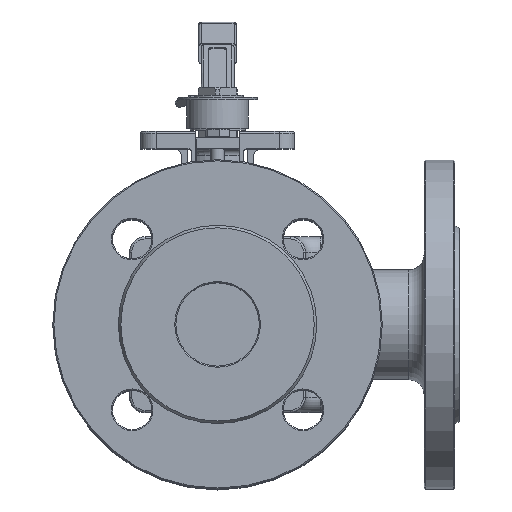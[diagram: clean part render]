
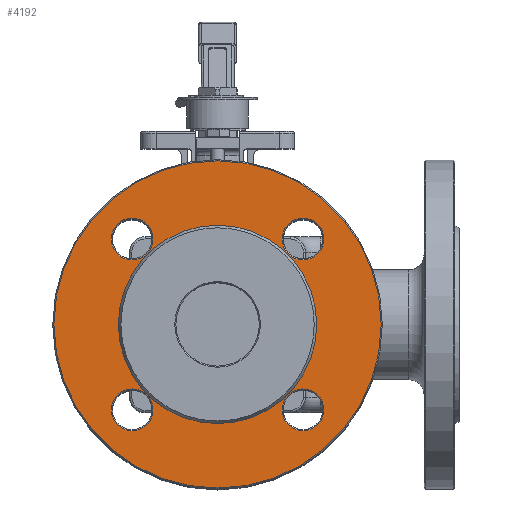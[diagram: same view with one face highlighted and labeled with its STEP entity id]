
A CAD part, top view. The second image highlights one B-rep face of the part: STEP entity #4192.
In plain terms, the highlighted planar face has unit normal (0, 0, 1).
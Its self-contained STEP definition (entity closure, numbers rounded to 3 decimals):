
#4192=ADVANCED_FACE('',(#12175,#12177,#12179,#12181,#12183,#12185),#12187,.T.);
#12175=FACE_BOUND('',#12176,.T.);
#12176=EDGE_LOOP('',(#17915));
#12177=FACE_BOUND('',#12178,.T.);
#12178=EDGE_LOOP('',(#17916));
#12179=FACE_BOUND('',#12180,.T.);
#12180=EDGE_LOOP('',(#17917));
#12181=FACE_BOUND('',#12182,.T.);
#12182=EDGE_LOOP('',(#17918));
#12183=FACE_BOUND('',#12184,.T.);
#12184=EDGE_LOOP('',(#17919));
#12185=FACE_BOUND('',#12186,.T.);
#12186=EDGE_LOOP('',(#17920));
#12187=PLANE('',#12188);
#12188=AXIS2_PLACEMENT_3D('',#12189,#12190,#12191);
#12189=CARTESIAN_POINT('',(0.,0.,108.));
#12190=DIRECTION('',(0.,0.,1.));
#12191=DIRECTION('',(1.,0.,0.));
#17915=ORIENTED_EDGE('',*,*,#20769,.F.);
#17916=ORIENTED_EDGE('',*,*,#20674,.F.);
#17917=ORIENTED_EDGE('',*,*,#20672,.F.);
#17918=ORIENTED_EDGE('',*,*,#20770,.F.);
#17919=ORIENTED_EDGE('',*,*,#20673,.F.);
#17920=ORIENTED_EDGE('',*,*,#20671,.F.);
#20671=EDGE_CURVE('',#23944,#23944,#23945,.T.);
#20672=EDGE_CURVE('',#23946,#23946,#23947,.T.);
#20673=EDGE_CURVE('',#23948,#23948,#23949,.T.);
#20674=EDGE_CURVE('',#23950,#23950,#23951,.T.);
#20769=EDGE_CURVE('',#24100,#24100,#24101,.T.);
#20770=EDGE_CURVE('',#24102,#24102,#24103,.T.);
#23944=VERTEX_POINT('',#39906);
#23945=CIRCLE('',#39907,9.5);
#23946=VERTEX_POINT('',#39911);
#23947=CIRCLE('',#39912,9.5);
#23948=VERTEX_POINT('',#39916);
#23949=CIRCLE('',#39917,9.5);
#23950=VERTEX_POINT('',#39921);
#23951=CIRCLE('',#39922,9.5);
#24100=VERTEX_POINT('',#40541);
#24101=CIRCLE('',#40542,74.5);
#24102=VERTEX_POINT('',#40546);
#24103=CIRCLE('',#40547,45.155);
#39906=CARTESIAN_POINT('',(-29.391,-38.891,108.));
#39907=AXIS2_PLACEMENT_3D('',#39908,#39909,#39910);
#39908=CARTESIAN_POINT('',(-38.891,-38.891,108.));
#39909=DIRECTION('',(0.,0.,1.));
#39910=DIRECTION('',(1.,0.,0.));
#39911=CARTESIAN_POINT('',(-29.391,38.891,108.));
#39912=AXIS2_PLACEMENT_3D('',#39913,#39914,#39915);
#39913=CARTESIAN_POINT('',(-38.891,38.891,108.));
#39914=DIRECTION('',(0.,0.,1.));
#39915=DIRECTION('',(1.,0.,0.));
#39916=CARTESIAN_POINT('',(48.391,38.891,108.));
#39917=AXIS2_PLACEMENT_3D('',#39918,#39919,#39920);
#39918=CARTESIAN_POINT('',(38.891,38.891,108.));
#39919=DIRECTION('',(0.,0.,1.));
#39920=DIRECTION('',(1.,0.,0.));
#39921=CARTESIAN_POINT('',(48.391,-38.891,108.));
#39922=AXIS2_PLACEMENT_3D('',#39923,#39924,#39925);
#39923=CARTESIAN_POINT('',(38.891,-38.891,108.));
#39924=DIRECTION('',(0.,0.,1.));
#39925=DIRECTION('',(1.,0.,0.));
#40541=CARTESIAN_POINT('',(74.5,0.,108.));
#40542=AXIS2_PLACEMENT_3D('',#40543,#40544,#40545);
#40543=CARTESIAN_POINT('',(0.,0.,108.));
#40544=DIRECTION('',(0.,0.,-1.));
#40545=DIRECTION('',(1.,0.,0.));
#40546=CARTESIAN_POINT('',(45.155,0.,108.));
#40547=AXIS2_PLACEMENT_3D('',#40548,#40549,#40550);
#40548=CARTESIAN_POINT('',(0.,0.,108.));
#40549=DIRECTION('',(0.,0.,1.));
#40550=DIRECTION('',(1.,0.,0.));
